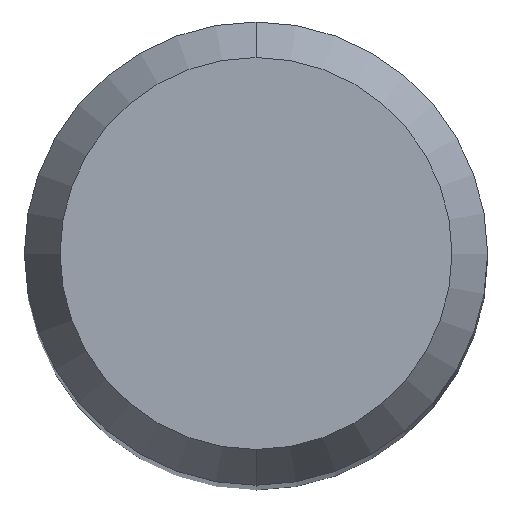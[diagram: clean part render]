
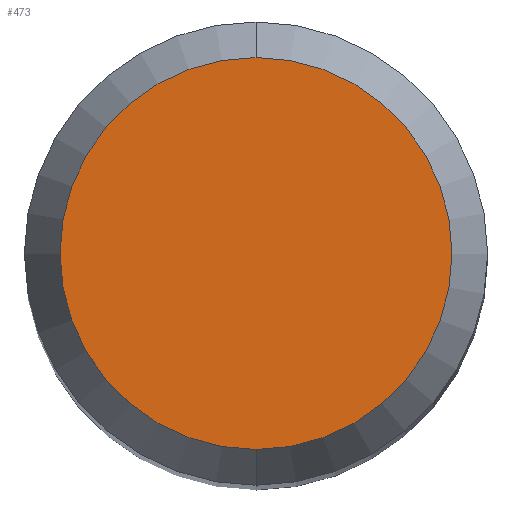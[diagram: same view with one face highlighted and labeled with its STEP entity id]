
A CAD part, top view. The second image highlights one B-rep face of the part: STEP entity #473.
In plain terms, the highlighted planar face has unit normal (0, 0, 1).
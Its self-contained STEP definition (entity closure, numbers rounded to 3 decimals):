
#401=EDGE_CURVE('',#477,#433,#832,.T.);
#433=VERTEX_POINT('',#870);
#447=EDGE_CURVE('',#433,#477,#885,.T.);
#473=ADVANCED_FACE('',(#913),#914,.T.);
#477=VERTEX_POINT('',#918);
#832=CIRCLE('',#1416,2.538);
#870=CARTESIAN_POINT('',(0.,-2.538,0.0));
#885=CIRCLE('',#1502,2.538);
#913=FACE_OUTER_BOUND('',#1564,.T.);
#914=PLANE('',#1565);
#918=CARTESIAN_POINT('',(0.0,2.538,0.0));
#1416=AXIS2_PLACEMENT_3D('',#2104,#2105,#2106);
#1502=AXIS2_PLACEMENT_3D('',#2178,#2179,#2180);
#1564=EDGE_LOOP('',(#2218,#2219));
#1565=AXIS2_PLACEMENT_3D('',#2220,#2221,#2222);
#2104=CARTESIAN_POINT('',(0.0,0.0,0.0));
#2105=DIRECTION('',(0.0,0.0,-1.0));
#2106=DIRECTION('',(0.0,1.0,0.0));
#2178=CARTESIAN_POINT('',(0.0,0.0,0.0));
#2179=DIRECTION('',(0.0,0.0,-1.0));
#2180=DIRECTION('',(0.0,1.0,0.0));
#2218=ORIENTED_EDGE('',*,*,#401,.F.);
#2219=ORIENTED_EDGE('',*,*,#447,.F.);
#2220=CARTESIAN_POINT('',(0.0,1.269,0.0));
#2221=DIRECTION('',(-0.0,0.0,1.0));
#2222=DIRECTION('',(0.0,-1.0,0.0));
